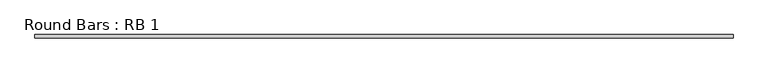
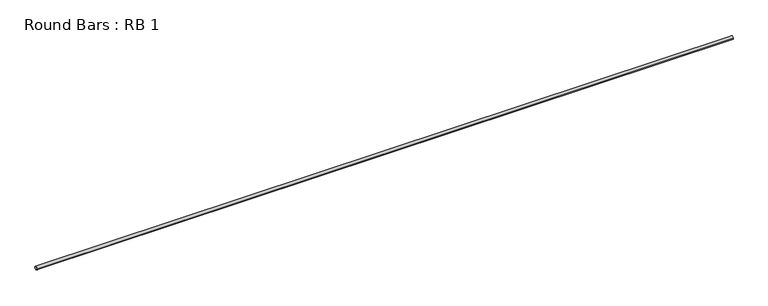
"""IFC4 building model written with IfcOpenShell, lengths in millimetres: beam geometry, Round Bars : RB 1."""

from ifc_helpers import new_model, si_unit, point, frame, origin, origin_2d, place, context, project, spatial, circle_curve, trimmed, segment, composite_curve, outline, extrude, source, transform, mapped, element, save


def round_bars_rb_1_8f1d1a11(model_context):
    return source(origin(), model_context, "Body", "SweptSolid", [
        extrude(outline(composite_curve([segment(trimmed(circle_curve(origin_2d(), 12.7), [point((12.7, 0.0))], [point((-12.7, 0.0))], False, "CARTESIAN"), True, "CONTINUOUS"), segment(trimmed(circle_curve(origin_2d(), 12.7), [point((-12.7, 0.0))], [point((12.7, 0.0))], False, "CARTESIAN"), True, "CONTINUOUS")], self_intersect=False)), frame((-2624.1585411, 0.0, 0.0), z_axis=(1.0, 0.0, 0.0), x_axis=(0.0, 1.0, 0.0)), (0.0, 0.0, 1.0), 5233.3666423),
    ])


if __name__ == "__main__":
    model = new_model("IFC4")
    model_context = context("Model", 3, world=origin())
    ifc_project = project(units=[si_unit("LENGTHUNIT", "METRE", prefix="MILLI")], contexts=[model_context])
    site = spatial("IfcSite", under=ifc_project)
    building = spatial("IfcBuilding", under=site)
    placement = place(None, origin())
    round_bars_rb_1_shape = round_bars_rb_1_8f1d1a11(model_context)
    element("IfcBeam", 1, ObjectType="Round Bars : RB 1", at=placement, inside=building, context=model_context, shape_type="MappedRepresentation", body=[
        mapped(round_bars_rb_1_shape, transform((0.0, 0.0, 0.0), x_axis=(1.0, 0.0, 0.0), y_axis=(0.0, 1.0, 0.0), z_axis=(0.0, 0.0, 1.0))),
    ])
    save(model, "model.ifc")
